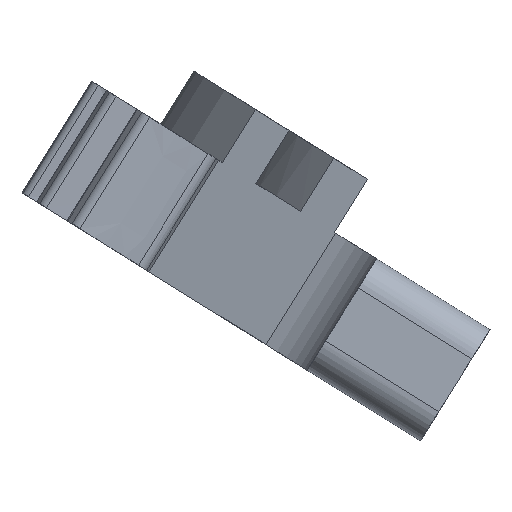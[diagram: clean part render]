
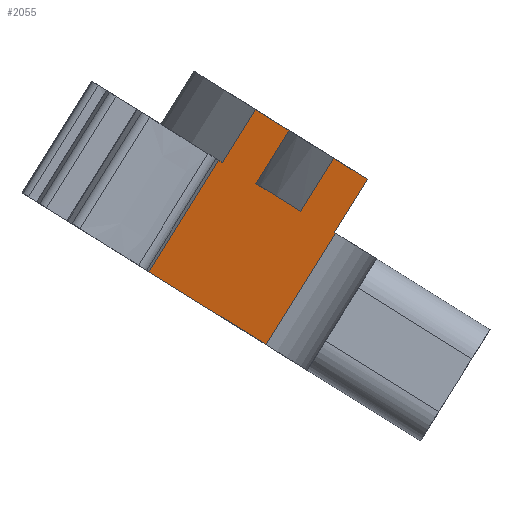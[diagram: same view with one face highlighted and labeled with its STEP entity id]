
A CAD part, front view. The second image highlights one B-rep face of the part: STEP entity #2055.
In plain terms, the highlighted planar face has unit normal (0.424, -0.866, -0.265).
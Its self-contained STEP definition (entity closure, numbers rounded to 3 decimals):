
#1980=AXIS2_PLACEMENT_3D('Plane Axis2P3D',#1977,#1978,#1979) ;
#504=CARTESIAN_POINT('Vertex',(-164.983,-1320.155,343.996)) ;
#507=CARTESIAN_POINT('Line Origine',(-164.965,-1320.143,343.985)) ;
#511=CARTESIAN_POINT('Vertex',(-164.947,-1320.131,343.974)) ;
#1091=CARTESIAN_POINT('Vertex',(-166.957,-1320.131,340.749)) ;
#1094=CARTESIAN_POINT('Line Origine',(-168.65,-1321.282,341.804)) ;
#1098=CARTESIAN_POINT('Vertex',(-170.342,-1322.433,342.858)) ;
#1955=CARTESIAN_POINT('Vertex',(-164.025,-1320.155,345.533)) ;
#1958=CARTESIAN_POINT('Line Origine',(-163.878,-1320.155,345.769)) ;
#1977=CARTESIAN_POINT('Axis2P3D Location',(-164.764,-1319.322,341.621)) ;
#1982=CARTESIAN_POINT('Line Origine',(-165.952,-1320.131,342.361)) ;
#1987=CARTESIAN_POINT('Line Origine',(-164.515,-1320.488,345.838)) ;
#1991=CARTESIAN_POINT('Vertex',(-165.005,-1320.822,346.144)) ;
#1994=CARTESIAN_POINT('Line Origine',(-165.484,-1320.822,345.375)) ;
#1998=CARTESIAN_POINT('Vertex',(-165.963,-1320.822,344.607)) ;
#2001=CARTESIAN_POINT('Line Origine',(-166.607,-1321.259,345.008)) ;
#2005=CARTESIAN_POINT('Vertex',(-167.25,-1321.697,345.409)) ;
#2008=CARTESIAN_POINT('Line Origine',(-166.771,-1321.697,346.178)) ;
#2012=CARTESIAN_POINT('Vertex',(-166.292,-1321.697,346.946)) ;
#2015=CARTESIAN_POINT('Line Origine',(-166.777,-1322.027,347.248)) ;
#2019=CARTESIAN_POINT('Vertex',(-167.261,-1322.356,347.55)) ;
#2022=CARTESIAN_POINT('Line Origine',(-167.74,-1322.356,346.781)) ;
#2026=CARTESIAN_POINT('Vertex',(-168.219,-1322.356,346.013)) ;
#2029=CARTESIAN_POINT('Line Origine',(-168.275,-1322.395,346.048)) ;
#2033=CARTESIAN_POINT('Vertex',(-168.332,-1322.433,346.083)) ;
#2036=CARTESIAN_POINT('Line Origine',(-169.337,-1322.433,344.471)) ;
#508=DIRECTION('Vector Direction',(0.735,0.5,-0.458)) ;
#1095=DIRECTION('Vector Direction',(0.735,0.5,-0.458)) ;
#1959=DIRECTION('Vector Direction',(0.529,0.,0.849)) ;
#1978=DIRECTION('Axis2P3D Direction',(0.424,-0.866,-0.264)) ;
#1979=DIRECTION('Axis2P3D XDirection',(-0.833,-0.488,0.261)) ;
#1983=DIRECTION('Vector Direction',(0.529,0.,0.849)) ;
#1988=DIRECTION('Vector Direction',(0.735,0.5,-0.458)) ;
#1995=DIRECTION('Vector Direction',(-0.529,0.,-0.849)) ;
#2002=DIRECTION('Vector Direction',(0.735,0.5,-0.458)) ;
#2009=DIRECTION('Vector Direction',(-0.529,0.,-0.849)) ;
#2016=DIRECTION('Vector Direction',(0.735,0.5,-0.458)) ;
#2023=DIRECTION('Vector Direction',(-0.529,0.,-0.849)) ;
#2030=DIRECTION('Vector Direction',(0.735,0.5,-0.458)) ;
#2037=DIRECTION('Vector Direction',(-0.529,0.,-0.849)) ;
#509=VECTOR('Line Direction',#508,1.) ;
#1096=VECTOR('Line Direction',#1095,1.) ;
#1960=VECTOR('Line Direction',#1959,1.) ;
#1984=VECTOR('Line Direction',#1983,1.) ;
#1989=VECTOR('Line Direction',#1988,1.) ;
#1996=VECTOR('Line Direction',#1995,1.) ;
#2003=VECTOR('Line Direction',#2002,1.) ;
#2010=VECTOR('Line Direction',#2009,1.) ;
#2017=VECTOR('Line Direction',#2016,1.) ;
#2024=VECTOR('Line Direction',#2023,1.) ;
#2031=VECTOR('Line Direction',#2030,1.) ;
#2038=VECTOR('Line Direction',#2037,1.) ;
#2042=ORIENTED_EDGE('',*,*,#1100,.T.) ;
#2043=ORIENTED_EDGE('',*,*,#1986,.T.) ;
#2044=ORIENTED_EDGE('',*,*,#513,.F.) ;
#2045=ORIENTED_EDGE('',*,*,#1962,.F.) ;
#2046=ORIENTED_EDGE('',*,*,#1993,.F.) ;
#2047=ORIENTED_EDGE('',*,*,#2000,.T.) ;
#2048=ORIENTED_EDGE('',*,*,#2007,.F.) ;
#2049=ORIENTED_EDGE('',*,*,#2014,.F.) ;
#2050=ORIENTED_EDGE('',*,*,#2021,.F.) ;
#2051=ORIENTED_EDGE('',*,*,#2028,.T.) ;
#2052=ORIENTED_EDGE('',*,*,#2035,.F.) ;
#2053=ORIENTED_EDGE('',*,*,#2040,.T.) ;
#2055=ADVANCED_FACE('\X2\96F64EF651E04F554F53\X0\',(#2054),#1981,.T.) ;
#513=EDGE_CURVE('',#505,#512,#510,.T.) ;
#1100=EDGE_CURVE('',#1099,#1092,#1097,.T.) ;
#1962=EDGE_CURVE('',#1956,#505,#1961,.F.) ;
#1986=EDGE_CURVE('',#1092,#512,#1985,.T.) ;
#1993=EDGE_CURVE('',#1992,#1956,#1990,.T.) ;
#2000=EDGE_CURVE('',#1992,#1999,#1997,.T.) ;
#2007=EDGE_CURVE('',#2006,#1999,#2004,.T.) ;
#2014=EDGE_CURVE('',#2013,#2006,#2011,.T.) ;
#2021=EDGE_CURVE('',#2020,#2013,#2018,.T.) ;
#2028=EDGE_CURVE('',#2020,#2027,#2025,.T.) ;
#2035=EDGE_CURVE('',#2034,#2027,#2032,.T.) ;
#2040=EDGE_CURVE('',#2034,#1099,#2039,.T.) ;
#2041=EDGE_LOOP('',(#2042,#2043,#2044,#2045,#2046,#2047,#2048,#2049,#2050,#2051,#2052,#2053)) ;
#2054=FACE_OUTER_BOUND('',#2041,.T.) ;
#510=LINE('Line',#507,#509) ;
#1097=LINE('Line',#1094,#1096) ;
#1961=LINE('Line',#1958,#1960) ;
#1985=LINE('Line',#1982,#1984) ;
#1990=LINE('Line',#1987,#1989) ;
#1997=LINE('Line',#1994,#1996) ;
#2004=LINE('Line',#2001,#2003) ;
#2011=LINE('Line',#2008,#2010) ;
#2018=LINE('Line',#2015,#2017) ;
#2025=LINE('Line',#2022,#2024) ;
#2032=LINE('Line',#2029,#2031) ;
#2039=LINE('Line',#2036,#2038) ;
#1981=PLANE('',#1980) ;
#505=VERTEX_POINT('',#504) ;
#512=VERTEX_POINT('',#511) ;
#1092=VERTEX_POINT('',#1091) ;
#1099=VERTEX_POINT('',#1098) ;
#1956=VERTEX_POINT('',#1955) ;
#1992=VERTEX_POINT('',#1991) ;
#1999=VERTEX_POINT('',#1998) ;
#2006=VERTEX_POINT('',#2005) ;
#2013=VERTEX_POINT('',#2012) ;
#2020=VERTEX_POINT('',#2019) ;
#2027=VERTEX_POINT('',#2026) ;
#2034=VERTEX_POINT('',#2033) ;
